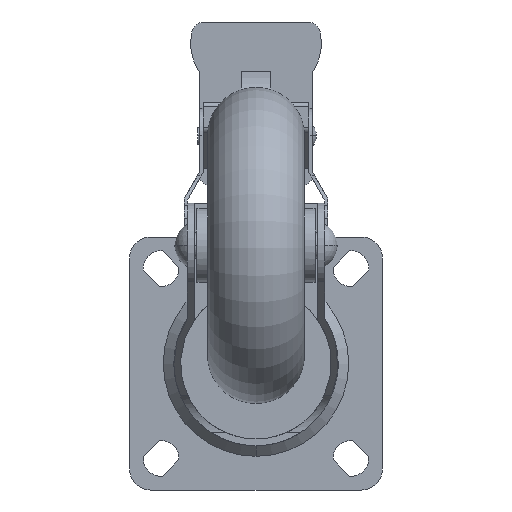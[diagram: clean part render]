
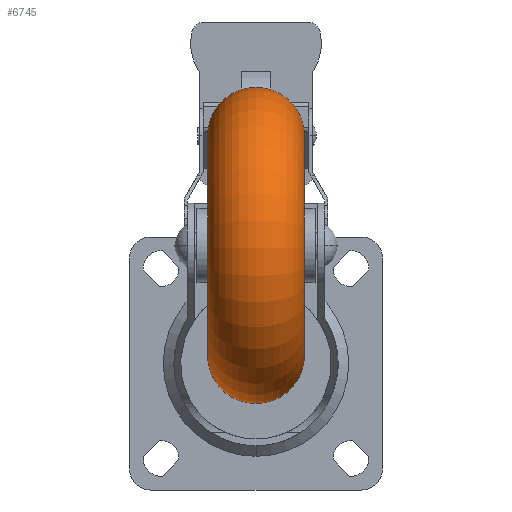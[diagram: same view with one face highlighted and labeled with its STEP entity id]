
A CAD part, front view. The second image highlights one B-rep face of the part: STEP entity #6745.
In plain terms, the highlighted toroidal (fillet/blend) face has major radius 26 mm and minor radius 11.5 mm.
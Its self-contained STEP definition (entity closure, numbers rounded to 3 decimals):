
#146 = VERTEX_POINT ( 'NONE', #8533 ) ;
#278 = ORIENTED_EDGE ( 'NONE', *, *, #1490, .F. ) ;
#291 = AXIS2_PLACEMENT_3D ( 'NONE', #1039, #1846, #403 ) ;
#298 = VERTEX_POINT ( 'NONE', #3121 ) ;
#403 = DIRECTION ( 'NONE',  ( 0., 0., 1. ) ) ;
#663 = CIRCLE ( 'NONE', #4750, 11.5 ) ;
#733 = DIRECTION ( 'NONE',  ( -1., 0., 0. ) ) ;
#836 = DIRECTION ( 'NONE',  ( 0., 0., -1. ) ) ;
#975 = DIRECTION ( 'NONE',  ( -1., 0., 0. ) ) ;
#1021 = CARTESIAN_POINT ( 'NONE',  ( 0., 0., 0. ) ) ;
#1039 = CARTESIAN_POINT ( 'NONE',  ( -11.5, 0., 0. ) ) ;
#1114 = CARTESIAN_POINT ( 'NONE',  ( -11.5, 0., -26. ) ) ;
#1490 = EDGE_CURVE ( 'NONE', #6832, #2501, #6660, .T. ) ;
#1797 = AXIS2_PLACEMENT_3D ( 'NONE', #1021, #975, #2464 ) ;
#1846 = DIRECTION ( 'NONE',  ( -1., 0., 0. ) ) ;
#1909 = EDGE_LOOP ( 'NONE', ( #2208, #8059, #6422, #278 ) ) ;
#1974 = AXIS2_PLACEMENT_3D ( 'NONE', #2989, #2298, #836 ) ;
#2208 = ORIENTED_EDGE ( 'NONE', *, *, #6130, .F. ) ;
#2298 = DIRECTION ( 'NONE',  ( 0., -1., 0. ) ) ;
#2464 = DIRECTION ( 'NONE',  ( 0., 0., 1. ) ) ;
#2501 = VERTEX_POINT ( 'NONE', #2584 ) ;
#2584 = CARTESIAN_POINT ( 'NONE',  ( -11.5, 0., 26. ) ) ;
#2641 = DIRECTION ( 'NONE',  ( 0., 1., 0. ) ) ;
#2745 = DIRECTION ( 'NONE',  ( 0., 0., 1. ) ) ;
#2989 = CARTESIAN_POINT ( 'NONE',  ( 0., 0., 26. ) ) ;
#3121 = CARTESIAN_POINT ( 'NONE',  ( 11.5, 0., 26. ) ) ;
#3762 = CIRCLE ( 'NONE', #8721, 26. ) ;
#4191 = CARTESIAN_POINT ( 'NONE',  ( 11.5, 0., 0. ) ) ;
#4306 = FACE_OUTER_BOUND ( 'NONE', #1909, .T. ) ;
#4736 = DIRECTION ( 'NONE',  ( 0., 0., 1. ) ) ;
#4750 = AXIS2_PLACEMENT_3D ( 'NONE', #8765, #2641, #4736 ) ;
#6130 = EDGE_CURVE ( 'NONE', #146, #6832, #663, .T. ) ;
#6422 = ORIENTED_EDGE ( 'NONE', *, *, #7978, .T. ) ;
#6660 = CIRCLE ( 'NONE', #291, 26. ) ;
#6745 = ADVANCED_FACE ( 'NONE', ( #4306 ), #7680, .T. ) ;
#6832 = VERTEX_POINT ( 'NONE', #1114 ) ;
#7680 = TOROIDAL_SURFACE ( 'NONE', #1797, 26., 11.5 ) ;
#7978 = EDGE_CURVE ( 'NONE', #298, #2501, #8711, .T. ) ;
#8059 = ORIENTED_EDGE ( 'NONE', *, *, #8853, .T. ) ;
#8533 = CARTESIAN_POINT ( 'NONE',  ( 11.5, 0., -26. ) ) ;
#8711 = CIRCLE ( 'NONE', #1974, 11.5 ) ;
#8721 = AXIS2_PLACEMENT_3D ( 'NONE', #4191, #733, #2745 ) ;
#8765 = CARTESIAN_POINT ( 'NONE',  ( 0., 0., -26. ) ) ;
#8853 = EDGE_CURVE ( 'NONE', #146, #298, #3762, .T. ) ;
